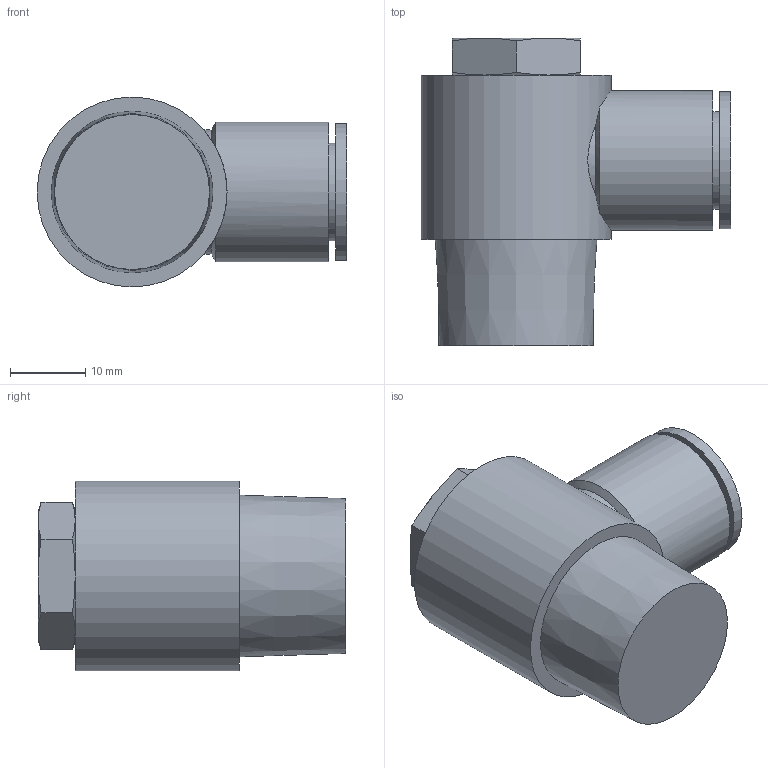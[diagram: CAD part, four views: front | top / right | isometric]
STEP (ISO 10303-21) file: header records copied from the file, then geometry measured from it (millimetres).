
FILE_DESCRIPTION(/* description */ ('STEP AP214'),/* implementation_level */ '2;1');
FILE_NAME(/* name */ 'KQ2V12-04AS',/* time_stamp */ '2024-10-24T13:57:33+02:00',/* author */ ('License CC BY-ND 4.0'),/* organization */ ('CADENAS'),/* preprocessor_version */ 'ST-DEVELOPER v19.3',/* originating_system */ 'PARTsolutions',/* authorisation */ ' ');
FILE_SCHEMA (('AUTOMOTIVE_DESIGN {1 0 10303 214 3 1 1}'));
Length unit declared in the file: millimetre
Products named in the file (1): KQ2V12-04AS
Bounding box: 41.1 x 40.8 x 25.2 mm (x, y, z)
Volume: 19409.3 mm3; surface area: 5866.1 mm2
Topology: 1 solids, 1 shells, 36 faces, 76 edges, 47 vertices
Faces by surface type: cone 15, plane 14, cylinder 7
Full cylindrical faces by diameter (mm): 12 x1, 12.95 x1, 18.2 x1, 18.5 x1, 25.2 x1
Entity records: 962 total; most frequent: CARTESIAN_POINT 253, DIRECTION 134, ORIENTED_EDGE 130, EDGE_CURVE 65, AXIS2_PLACEMENT_3D 64, EDGE_LOOP 48, FACE_BOUND 48, VERTEX_POINT 43
